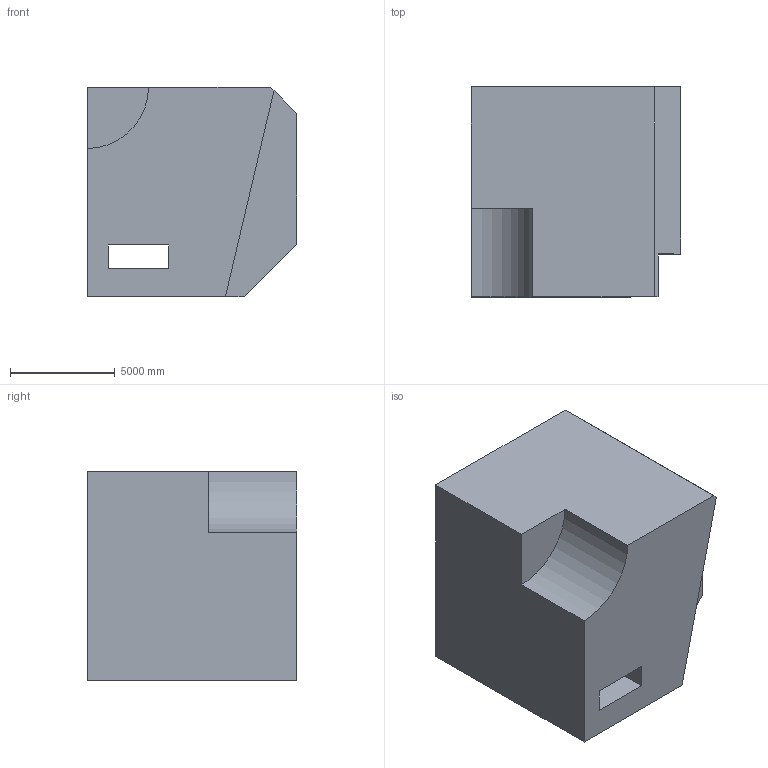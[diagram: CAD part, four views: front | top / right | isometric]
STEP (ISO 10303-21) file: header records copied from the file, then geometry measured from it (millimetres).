
FILE_DESCRIPTION (( 'STEP AP203' ), '1' );
FILE_NAME ('489.STEP', '2022-07-29T11:29:17', ( 'user' ), ( '' ), 'SwSTEP 2.0', 'SolidWorks 2021', '' );
FILE_SCHEMA (( 'CONFIG_CONTROL_DESIGN' ));
Length unit declared in the file: centimetre
Products named in the file (1): 489
Bounding box: 10000 x 10000 x 10000 mm (x, y, z)
Volume: 861949004137.6 mm3; surface area: 633983759.1 mm2
Topology: 1 solids, 1 shells, 16 faces, 42 edges, 28 vertices
Faces by surface type: plane 15, cylinder 1
Entity records: 569 total; most frequent: CARTESIAN_POINT 87, ORIENTED_EDGE 84, DIRECTION 78, EDGE_CURVE 42, VECTOR 40, LINE 40, VERTEX_POINT 28, AXIS2_PLACEMENT_3D 19
